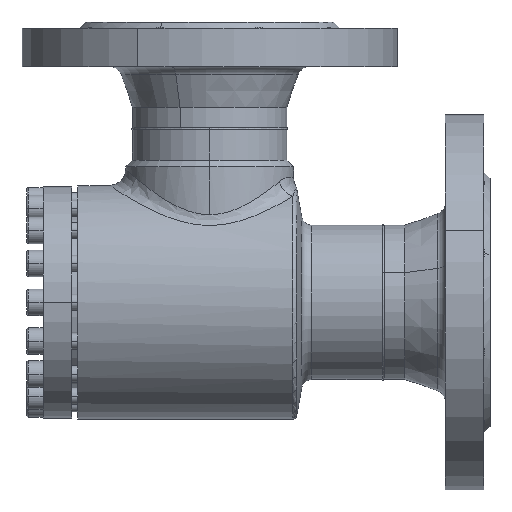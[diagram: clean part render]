
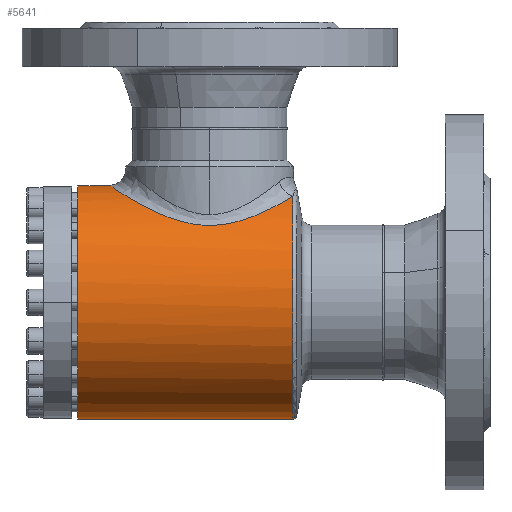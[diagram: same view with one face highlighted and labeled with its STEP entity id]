
A CAD part, left-side view. The second image highlights one B-rep face of the part: STEP entity #5641.
In plain terms, the highlighted cylindrical face has radius 57.5 mm (diameter 115 mm), a partial arc.
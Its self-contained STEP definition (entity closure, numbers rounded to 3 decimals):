
#2994 = CARTESIAN_POINT ( 'NONE',  ( 0., -15.7, 57.5 ) ) ;
#3030 = LINE ( 'NONE', #3031, #3032 ) ;
#3031 = CARTESIAN_POINT ( 'NONE',  ( 0., -111., 57.5 ) ) ;
#3032 = VECTOR ( 'NONE', #3033, 1000. ) ;
#3033 = DIRECTION ( 'NONE',  ( 0., 1., 0. ) ) ;
#3095 = CARTESIAN_POINT ( 'NONE',  ( 0., 0., -57.5 ) ) ;
#3108 = CIRCLE ( 'NONE', #3109, 57.5 ) ;
#3109 = AXIS2_PLACEMENT_3D ( 'NONE', #3110, #3111, #3112 ) ;
#3110 = CARTESIAN_POINT ( 'NONE',  ( 0., -105.892, 0. ) ) ;
#3111 = DIRECTION ( 'NONE',  ( 0., 1., 0. ) ) ;
#3112 = DIRECTION ( 'NONE',  ( 0., 0., -1. ) ) ;
#3239 = LINE ( 'NONE', #3240, #3241 ) ;
#3240 = CARTESIAN_POINT ( 'NONE',  ( 0., -111., -57.5 ) ) ;
#3241 = VECTOR ( 'NONE', #3242, 1000. ) ;
#3242 = DIRECTION ( 'NONE',  ( 0., 1., 0. ) ) ;
#3315 = CARTESIAN_POINT ( 'NONE',  ( 0., -105.892, -57.5 ) ) ;
#4172 = CIRCLE ( 'NONE', #4173, 57.5 ) ;
#4173 = AXIS2_PLACEMENT_3D ( 'NONE', #4174, #4175, #4176 ) ;
#4174 = CARTESIAN_POINT ( 'NONE',  ( 0., 0., 0. ) ) ;
#4175 = DIRECTION ( 'NONE',  ( 0., 1., 0. ) ) ;
#4176 = DIRECTION ( 'NONE',  ( 0., 0., 1. ) ) ;
#4752 = FACE_OUTER_BOUND ( 'NONE', #5413, .T. ) ;
#4755 = CYLINDRICAL_SURFACE ( 'NONE', #4756, 57.5 ) ;
#4756 = AXIS2_PLACEMENT_3D ( 'NONE', #4757, #4758, #4759 ) ;
#4757 = CARTESIAN_POINT ( 'NONE',  ( 0., -111., 0. ) ) ;
#4758 = DIRECTION ( 'NONE',  ( 0., 1., 0. ) ) ;
#4759 = DIRECTION ( 'NONE',  ( 0., 0., 1. ) ) ;
#5413 = EDGE_LOOP ( 'NONE', ( #15518, #9226, #12938, #6138, #12417 ) ) ;
#5641 = ADVANCED_FACE ( 'NONE', ( #4752 ), #4755, .T. ) ;
#6138 = ORIENTED_EDGE ( 'NONE', *, *, #7940, .T. ) ;
#7440 = EDGE_CURVE ( 'NONE', #8111, #7936, #10272, .T. ) ;
#7936 = VERTEX_POINT ( 'NONE', #2994 ) ;
#7940 = EDGE_CURVE ( 'NONE', #7936, #9529, #3030, .T. ) ;
#8111 = VERTEX_POINT ( 'NONE', #8401 ) ;
#8401 = CARTESIAN_POINT ( 'NONE',  ( -24.174, -105.892, 52.171 ) ) ;
#9161 = CARTESIAN_POINT ( 'NONE',  ( 0., 0., 57.5 ) ) ;
#9226 = ORIENTED_EDGE ( 'NONE', *, *, #11048, .T. ) ;
#9529 = VERTEX_POINT ( 'NONE', #9161 ) ;
#10272 = B_SPLINE_CURVE_WITH_KNOTS ( 'NONE', 3,
 ( #10273, #10274, #10275, #10276, #10277, #10278, #10282, #10283, #10284, #10285, #10286, #10287, #10288, #10289, #10290, #10291, #10292, #10293, #10294, #10295, #10296, #10297, #10300, #10301, #10302, #10303, #10304, #10305, #10306, #10307, #10308, #10309, #10310, #10311, #10312, #10313, #10314, #10315, #10317, #10318, #10319, #10320, #10321, #10322, #10323, #10324, #10325, #10326, #10327, #10328, #10329, #10330, #10331, #10332, #10335, #10336, #10337, #10338, #10339, #10340, #10341, #10342 ),
 .UNSPECIFIED., .F., .F.,
 ( 4, 2, 2, 2, 2, 2, 2, 2, 2, 2, 2, 2, 2, 2, 2, 2, 2, 2, 2, 2, 2, 2, 2, 2, 2, 2, 2, 2, 2, 2, 4 ),
 ( 0., 0.008, 0.016, 0.017, 0.019, 0.023, 0.031, 0.035, 0.039, 0.047, 0.049, 0.05, 0.054, 0.058, 0.06, 0.062, 0.07, 0.074, 0.078, 0.085, 0.089, 0.091, 0.093, 0.101, 0.105, 0.107, 0.109, 0.116, 0.118, 0.12, 0.124 ),
 .UNSPECIFIED. ) ;
#10273 = CARTESIAN_POINT ( 'NONE',  ( -24.174, -105.892, 52.171 ) ) ;
#10274 = CARTESIAN_POINT ( 'NONE',  ( -26.132, -104.39, 51.264 ) ) ;
#10275 = CARTESIAN_POINT ( 'NONE',  ( -27.915, -102.76, 50.305 ) ) ;
#10276 = CARTESIAN_POINT ( 'NONE',  ( -31.195, -99.268, 48.34 ) ) ;
#10277 = CARTESIAN_POINT ( 'NONE',  ( -32.691, -97.405, 47.333 ) ) ;
#10278 = CARTESIAN_POINT ( 'NONE',  ( -34.397, -94.927, 46.079 ) ) ;
#10282 = CARTESIAN_POINT ( 'NONE',  ( -34.73, -94.424, 45.829 ) ) ;
#10283 = CARTESIAN_POINT ( 'NONE',  ( -35.379, -93.402, 45.329 ) ) ;
#10284 = CARTESIAN_POINT ( 'NONE',  ( -35.695, -92.884, 45.08 ) ) ;
#10285 = CARTESIAN_POINT ( 'NONE',  ( -36.613, -91.317, 44.344 ) ) ;
#10286 = CARTESIAN_POINT ( 'NONE',  ( -37.186, -90.253, 43.863 ) ) ;
#10287 = CARTESIAN_POINT ( 'NONE',  ( -38.793, -86.998, 42.466 ) ) ;
#10288 = CARTESIAN_POINT ( 'NONE',  ( -39.716, -84.747, 41.594 ) ) ;
#10289 = CARTESIAN_POINT ( 'NONE',  ( -40.882, -81.225, 40.437 ) ) ;
#10290 = CARTESIAN_POINT ( 'NONE',  ( -41.234, -80.027, 40.077 ) ) ;
#10291 = CARTESIAN_POINT ( 'NONE',  ( -41.862, -77.576, 39.421 ) ) ;
#10292 = CARTESIAN_POINT ( 'NONE',  ( -42.138, -76.319, 39.125 ) ) ;
#10293 = CARTESIAN_POINT ( 'NONE',  ( -42.831, -72.529, 38.37 ) ) ;
#10294 = CARTESIAN_POINT ( 'NONE',  ( -43.12, -69.961, 38.038 ) ) ;
#10295 = CARTESIAN_POINT ( 'NONE',  ( -43.257, -66.692, 37.883 ) ) ;
#10296 = CARTESIAN_POINT ( 'NONE',  ( -43.273, -66.034, 37.864 ) ) ;
#10297 = CARTESIAN_POINT ( 'NONE',  ( -43.282, -64.718, 37.854 ) ) ;
#10300 = CARTESIAN_POINT ( 'NONE',  ( -43.275, -64.063, 37.862 ) ) ;
#10301 = CARTESIAN_POINT ( 'NONE',  ( -43.219, -62.103, 37.926 ) ) ;
#10302 = CARTESIAN_POINT ( 'NONE',  ( -43.137, -60.806, 38.02 ) ) ;
#10303 = CARTESIAN_POINT ( 'NONE',  ( -42.884, -58.229, 38.305 ) ) ;
#10304 = CARTESIAN_POINT ( 'NONE',  ( -42.713, -56.95, 38.496 ) ) ;
#10305 = CARTESIAN_POINT ( 'NONE',  ( -42.391, -55.043, 38.85 ) ) ;
#10306 = CARTESIAN_POINT ( 'NONE',  ( -42.272, -54.408, 38.979 ) ) ;
#10307 = CARTESIAN_POINT ( 'NONE',  ( -42.014, -53.15, 39.257 ) ) ;
#10308 = CARTESIAN_POINT ( 'NONE',  ( -41.875, -52.528, 39.406 ) ) ;
#10309 = CARTESIAN_POINT ( 'NONE',  ( -41.13, -49.446, 40.191 ) ) ;
#10310 = CARTESIAN_POINT ( 'NONE',  ( -40.378, -47.077, 40.957 ) ) ;
#10311 = CARTESIAN_POINT ( 'NONE',  ( -39.022, -43.642, 42.237 ) ) ;
#10312 = CARTESIAN_POINT ( 'NONE',  ( -38.532, -42.517, 42.685 ) ) ;
#10313 = CARTESIAN_POINT ( 'NONE',  ( -37.473, -40.304, 43.618 ) ) ;
#10314 = CARTESIAN_POINT ( 'NONE',  ( -36.908, -39.223, 44.098 ) ) ;
#10315 = CARTESIAN_POINT ( 'NONE',  ( -35.115, -36.073, 45.559 ) ) ;
#10317 = CARTESIAN_POINT ( 'NONE',  ( -33.785, -34.085, 46.562 ) ) ;
#10318 = CARTESIAN_POINT ( 'NONE',  ( -31.574, -31.259, 48.064 ) ) ;
#10319 = CARTESIAN_POINT ( 'NONE',  ( -30.801, -30.343, 48.564 ) ) ;
#10320 = CARTESIAN_POINT ( 'NONE',  ( -29.582, -29.009, 49.309 ) ) ;
#10321 = CARTESIAN_POINT ( 'NONE',  ( -29.166, -28.57, 49.557 ) ) ;
#10322 = CARTESIAN_POINT ( 'NONE',  ( -28.313, -27.708, 50.049 ) ) ;
#10323 = CARTESIAN_POINT ( 'NONE',  ( -27.875, -27.282, 50.294 ) ) ;
#10324 = CARTESIAN_POINT ( 'NONE',  ( -25.646, -25.201, 51.504 ) ) ;
#10325 = CARTESIAN_POINT ( 'NONE',  ( -23.737, -23.688, 52.419 ) ) ;
#10326 = CARTESIAN_POINT ( 'NONE',  ( -20.66, -21.659, 53.671 ) ) ;
#10327 = CARTESIAN_POINT ( 'NONE',  ( -19.599, -21.023, 54.069 ) ) ;
#10328 = CARTESIAN_POINT ( 'NONE',  ( -17.948, -20.134, 54.63 ) ) ;
#10329 = CARTESIAN_POINT ( 'NONE',  ( -17.388, -19.848, 54.811 ) ) ;
#10330 = CARTESIAN_POINT ( 'NONE',  ( -16.247, -19.3, 55.16 ) ) ;
#10331 = CARTESIAN_POINT ( 'NONE',  ( -15.665, -19.037, 55.328 ) ) ;
#10332 = CARTESIAN_POINT ( 'NONE',  ( -12.734, -17.796, 56.125 ) ) ;
#10335 = CARTESIAN_POINT ( 'NONE',  ( -10.302, -17.028, 56.627 ) ) ;
#10336 = CARTESIAN_POINT ( 'NONE',  ( -7.142, -16.371, 57.058 ) ) ;
#10337 = CARTESIAN_POINT ( 'NONE',  ( -6.505, -16.254, 57.135 ) ) ;
#10338 = CARTESIAN_POINT ( 'NONE',  ( -5.216, -16.054, 57.267 ) ) ;
#10339 = CARTESIAN_POINT ( 'NONE',  ( -4.563, -15.969, 57.322 ) ) ;
#10340 = CARTESIAN_POINT ( 'NONE',  ( -2.602, -15.766, 57.456 ) ) ;
#10341 = CARTESIAN_POINT ( 'NONE',  ( -1.298, -15.7, 57.5 ) ) ;
#10342 = CARTESIAN_POINT ( 'NONE',  ( 0., -15.7, 57.5 ) ) ;
#11048 = EDGE_CURVE ( 'NONE', #11208, #8111, #3108, .T. ) ;
#11152 = EDGE_CURVE ( 'NONE', #11208, #15558, #3239, .T. ) ;
#11208 = VERTEX_POINT ( 'NONE', #3315 ) ;
#12060 = EDGE_CURVE ( 'NONE', #15558, #9529, #4172, .T. ) ;
#12417 = ORIENTED_EDGE ( 'NONE', *, *, #12060, .F. ) ;
#12938 = ORIENTED_EDGE ( 'NONE', *, *, #7440, .T. ) ;
#15518 = ORIENTED_EDGE ( 'NONE', *, *, #11152, .F. ) ;
#15558 = VERTEX_POINT ( 'NONE', #3095 ) ;
